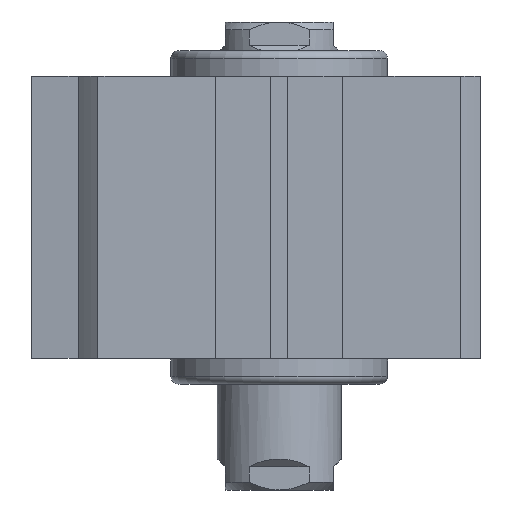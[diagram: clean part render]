
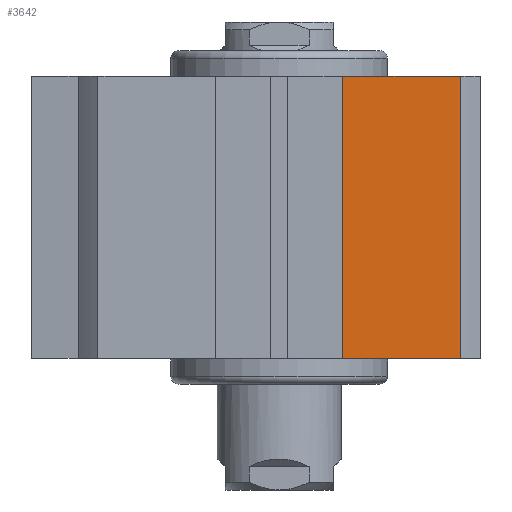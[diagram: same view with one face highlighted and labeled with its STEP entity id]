
A CAD part, left-side view. The second image highlights one B-rep face of the part: STEP entity #3642.
In plain terms, the highlighted planar face has unit normal (-1, 0, 0).
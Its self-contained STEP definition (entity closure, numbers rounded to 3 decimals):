
#661=CARTESIAN_POINT('',(-25.402,-21.876,0.0));
#662=VERTEX_POINT('',#661);
#672=CARTESIAN_POINT('',(-25.402,-6.645,0.0));
#673=VERTEX_POINT('',#672);
#674=CARTESIAN_POINT('',(-25.402,-6.645,0.0));
#675=DIRECTION('',(0.0,-1.0,0.0));
#676=VECTOR('',#675,15.231);
#677=LINE('',#674,#676);
#678=EDGE_CURVE('',#673,#662,#677,.T.);
#1338=CARTESIAN_POINT('',(-25.402,-21.876,36.5));
#1339=VERTEX_POINT('',#1338);
#1340=CARTESIAN_POINT('',(-25.402,-6.645,36.5));
#1341=VERTEX_POINT('',#1340);
#1342=CARTESIAN_POINT('',(-25.402,-21.876,36.5));
#1343=DIRECTION('',(0.0,1.0,0.0));
#1344=VECTOR('',#1343,15.231);
#1345=LINE('',#1342,#1344);
#1346=EDGE_CURVE('',#1339,#1341,#1345,.T.);
#3621=CARTESIAN_POINT('',(-25.402,-21.876,0.0));
#3622=DIRECTION('',(-1.0,0.0,0.0));
#3623=DIRECTION('',(0.0,0.0,1.0));
#3624=AXIS2_PLACEMENT_3D('',#3621,#3622,#3623);
#3625=PLANE('',#3624);
#3626=ORIENTED_EDGE('',*,*,#1346,.T.);
#3627=CARTESIAN_POINT('',(-25.402,-6.645,0.0));
#3628=DIRECTION('',(0.0,0.0,1.0));
#3629=VECTOR('',#3628,36.5);
#3630=LINE('',#3627,#3629);
#3631=EDGE_CURVE('',#673,#1341,#3630,.T.);
#3632=ORIENTED_EDGE('',*,*,#3631,.F.);
#3633=ORIENTED_EDGE('',*,*,#678,.T.);
#3634=CARTESIAN_POINT('',(-25.402,-21.876,0.0));
#3635=DIRECTION('',(0.0,0.0,1.0));
#3636=VECTOR('',#3635,36.5);
#3637=LINE('',#3634,#3636);
#3638=EDGE_CURVE('',#662,#1339,#3637,.T.);
#3639=ORIENTED_EDGE('',*,*,#3638,.T.);
#3640=EDGE_LOOP('',(#3626,#3632,#3633,#3639));
#3641=FACE_OUTER_BOUND('',#3640,.T.);
#3642=ADVANCED_FACE('',(#3641),#3625,.T.);
